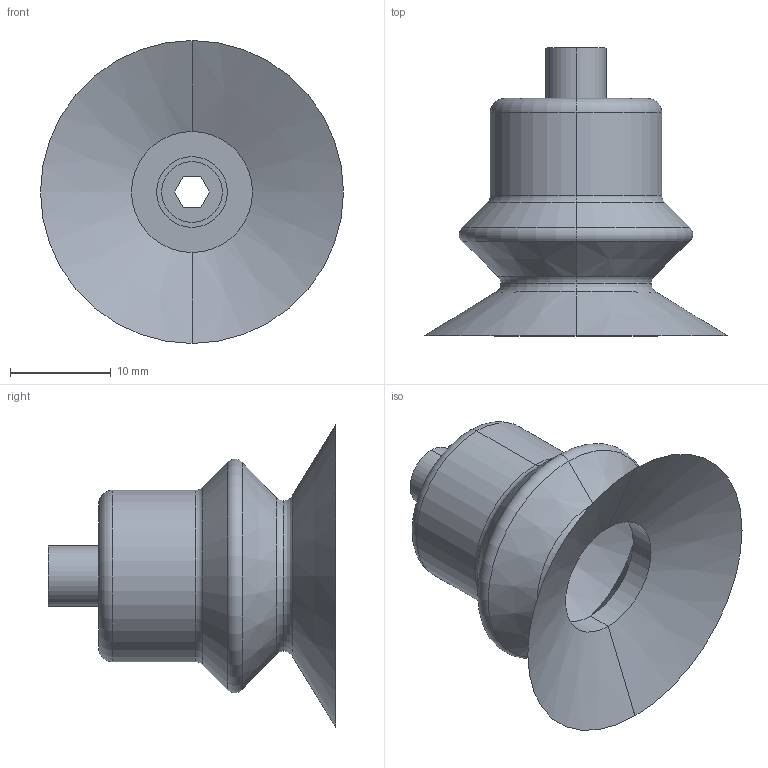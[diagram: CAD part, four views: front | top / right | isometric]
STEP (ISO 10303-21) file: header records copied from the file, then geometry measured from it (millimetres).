
FILE_DESCRIPTION (( 'STEP AP203' ), '1' );
FILE_NAME ('00023806 - 30MM VACUUM CUP ASSY.step', '2013-04-05T16:25:22', ( '' ), ( '' ), 'SwSTEP 2.0', 'SolidWorks 2012', '' );
FILE_SCHEMA (( 'CONFIG_CONTROL_DESIGN' ));
Length unit declared in the file: millimetre
Products named in the file (1): 00023806 - 30MM VACUUM CUP ASSY
Bounding box: 30 x 28.5 x 30 mm (x, y, z)
Surface area: 3763.9 mm2 (no closed solid volume)
Topology: 0 solids, 2 shells, 39 faces, 86 edges, 50 vertices
Faces by surface type: cone 12, torus 10, plane 9, cylinder 8
Entity records: 1142 total; most frequent: DIRECTION 214, CARTESIAN_POINT 176, ORIENTED_EDGE 160, AXIS2_PLACEMENT_3D 88, EDGE_CURVE 86, VERTEX_POINT 50, CIRCLE 48, EDGE_LOOP 42
